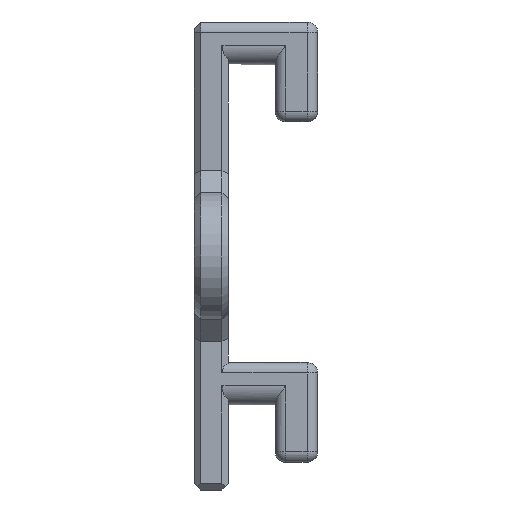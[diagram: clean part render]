
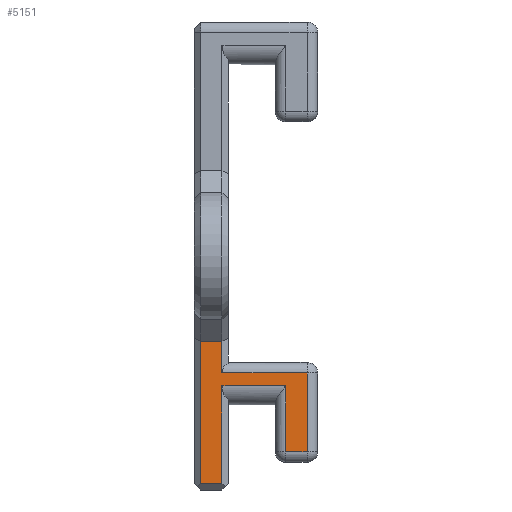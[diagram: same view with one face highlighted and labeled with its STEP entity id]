
A CAD part, left-side view. The second image highlights one B-rep face of the part: STEP entity #5151.
In plain terms, the highlighted planar face has unit normal (-1, 0, 0).
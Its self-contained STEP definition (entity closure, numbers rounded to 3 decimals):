
#112=PLANE('',#5494);
#348=FACE_OUTER_BOUND('',#649,.T.);
#649=EDGE_LOOP('',(#4207,#4208,#4209,#4210,#4211,#4212,#4213,#4214,#4215,
#4216));
#1327=LINE('',#20432,#1716);
#1329=LINE('',#20436,#1718);
#1394=LINE('',#20580,#1783);
#1396=LINE('',#20584,#1785);
#1397=LINE('',#20586,#1786);
#1398=LINE('',#20588,#1787);
#1399=LINE('',#20590,#1788);
#1400=LINE('',#20592,#1789);
#1401=LINE('',#20594,#1790);
#1402=LINE('',#20595,#1791);
#1716=VECTOR('',#6174,10.);
#1718=VECTOR('',#6178,10.);
#1783=VECTOR('',#6323,10.);
#1785=VECTOR('',#6327,10.);
#1786=VECTOR('',#6328,10.);
#1787=VECTOR('',#6329,10.);
#1788=VECTOR('',#6330,10.);
#1789=VECTOR('',#6331,10.);
#1790=VECTOR('',#6332,10.);
#1791=VECTOR('',#6333,10.);
#2280=VERTEX_POINT('',#20429);
#2281=VERTEX_POINT('',#20431);
#2282=VERTEX_POINT('',#20435);
#2321=VERTEX_POINT('',#20579);
#2322=VERTEX_POINT('',#20583);
#2323=VERTEX_POINT('',#20585);
#2324=VERTEX_POINT('',#20587);
#2325=VERTEX_POINT('',#20589);
#2326=VERTEX_POINT('',#20591);
#2327=VERTEX_POINT('',#20593);
#2905=EDGE_CURVE('',#2280,#2281,#1327,.T.);
#2907=EDGE_CURVE('',#2281,#2282,#1329,.T.);
#2979=EDGE_CURVE('',#2282,#2321,#1394,.T.);
#2981=EDGE_CURVE('',#2322,#2280,#1396,.T.);
#2982=EDGE_CURVE('',#2323,#2322,#1397,.T.);
#2983=EDGE_CURVE('',#2324,#2323,#1398,.T.);
#2984=EDGE_CURVE('',#2325,#2324,#1399,.T.);
#2985=EDGE_CURVE('',#2326,#2325,#1400,.T.);
#2986=EDGE_CURVE('',#2327,#2326,#1401,.T.);
#2987=EDGE_CURVE('',#2321,#2327,#1402,.T.);
#4207=ORIENTED_EDGE('',*,*,#2905,.F.);
#4208=ORIENTED_EDGE('',*,*,#2981,.F.);
#4209=ORIENTED_EDGE('',*,*,#2982,.F.);
#4210=ORIENTED_EDGE('',*,*,#2983,.F.);
#4211=ORIENTED_EDGE('',*,*,#2984,.F.);
#4212=ORIENTED_EDGE('',*,*,#2985,.F.);
#4213=ORIENTED_EDGE('',*,*,#2986,.F.);
#4214=ORIENTED_EDGE('',*,*,#2987,.F.);
#4215=ORIENTED_EDGE('',*,*,#2979,.F.);
#4216=ORIENTED_EDGE('',*,*,#2907,.F.);
#5151=ADVANCED_FACE('',(#348),#112,.T.);
#5494=AXIS2_PLACEMENT_3D('',#20582,#6325,#6326);
#6174=DIRECTION('',(0.,1.,0.));
#6178=DIRECTION('',(0.,0.,1.));
#6323=DIRECTION('',(0.,-1.,0.));
#6325=DIRECTION('center_axis',(-1.,0.,0.));
#6326=DIRECTION('ref_axis',(0.,0.,1.));
#6327=DIRECTION('',(0.,0.,-1.));
#6328=DIRECTION('',(0.,1.,0.));
#6329=DIRECTION('',(0.,0.,1.));
#6330=DIRECTION('',(0.,1.,0.));
#6331=DIRECTION('',(0.,0.,-1.));
#6332=DIRECTION('',(0.,-1.,0.));
#6333=DIRECTION('',(0.,0.,-1.));
#20429=CARTESIAN_POINT('',(7.75,0.75,-26.75));
#20431=CARTESIAN_POINT('',(7.75,3.25,-26.75));
#20432=CARTESIAN_POINT('',(7.75,0.,-26.75));
#20435=CARTESIAN_POINT('',(7.75,3.25,-10.));
#20436=CARTESIAN_POINT('',(7.75,3.25,-13.75));
#20579=CARTESIAN_POINT('',(7.75,0.75,-10.));
#20580=CARTESIAN_POINT('',(7.75,0.,-10.));
#20582=CARTESIAN_POINT('Origin',(7.75,0.,-27.5));
#20583=CARTESIAN_POINT('',(7.75,0.75,-15.25));
#20584=CARTESIAN_POINT('',(7.75,0.75,-13.75));
#20585=CARTESIAN_POINT('',(7.75,-6.75,-15.25));
#20586=CARTESIAN_POINT('',(7.75,0.,-15.25));
#20587=CARTESIAN_POINT('',(7.75,-6.75,-23.));
#20588=CARTESIAN_POINT('',(7.75,-6.75,-22.5));
#20589=CARTESIAN_POINT('',(7.75,-9.25,-23.));
#20590=CARTESIAN_POINT('',(7.75,-4.,-23.));
#20591=CARTESIAN_POINT('',(7.75,-9.25,-13.75));
#20592=CARTESIAN_POINT('',(7.75,-9.25,-21.25));
#20593=CARTESIAN_POINT('',(7.75,0.75,-13.75));
#20594=CARTESIAN_POINT('',(7.75,0.,-13.75));
#20595=CARTESIAN_POINT('',(7.75,0.75,-13.75));
